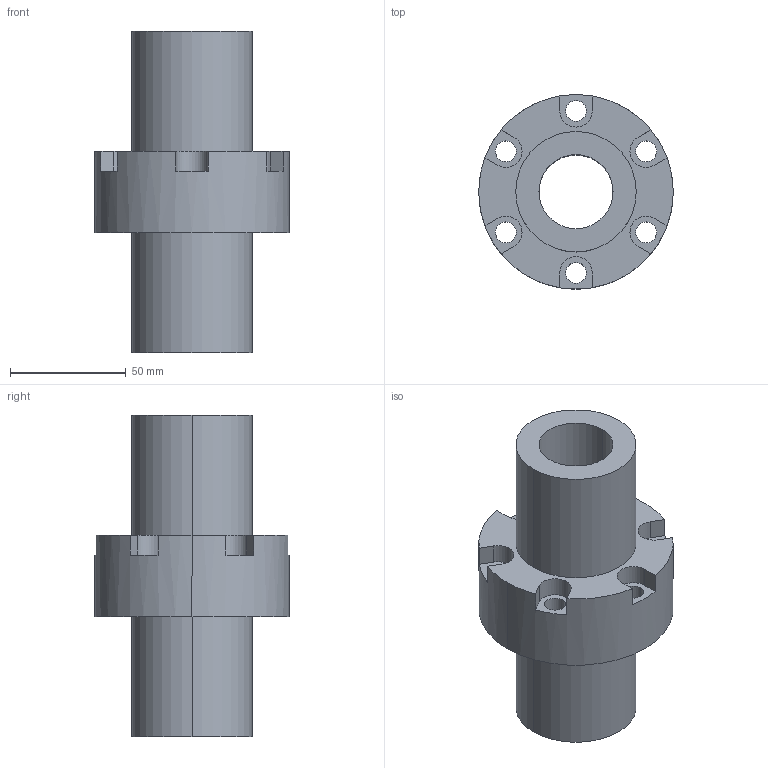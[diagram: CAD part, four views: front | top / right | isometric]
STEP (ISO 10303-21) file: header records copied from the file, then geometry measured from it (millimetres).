
FILE_DESCRIPTION((''),'2;1');
FILE_NAME('32-8T3','2008-04-03T',('yanyu'),(''),'PRO/ENGINEER BY PARAMETRIC TECHNOLOGY CORPORATION, 2005070','PRO/ENGINEER BY PARAMETRIC TECHNOLOGY CORPORATION, 2005070','');
FILE_SCHEMA(('CONFIG_CONTROL_DESIGN'));
Length unit declared in the file: millimetre
Products named in the file (1): 32-8T3
Bounding box: 84 x 84 x 139 mm (x, y, z)
Volume: 284138.9 mm3; surface area: 54465.4 mm2
Topology: 1 solids, 1 shells, 48 faces, 132 edges, 88 vertices
Faces by surface type: cylinder 26, plane 22
Entity records: 1626 total; most frequent: DIRECTION 292, CARTESIAN_POINT 268, ORIENTED_EDGE 264, EDGE_CURVE 132, AXIS2_PLACEMENT_3D 112, VERTEX_POINT 88, VECTOR 68, LINE 68
